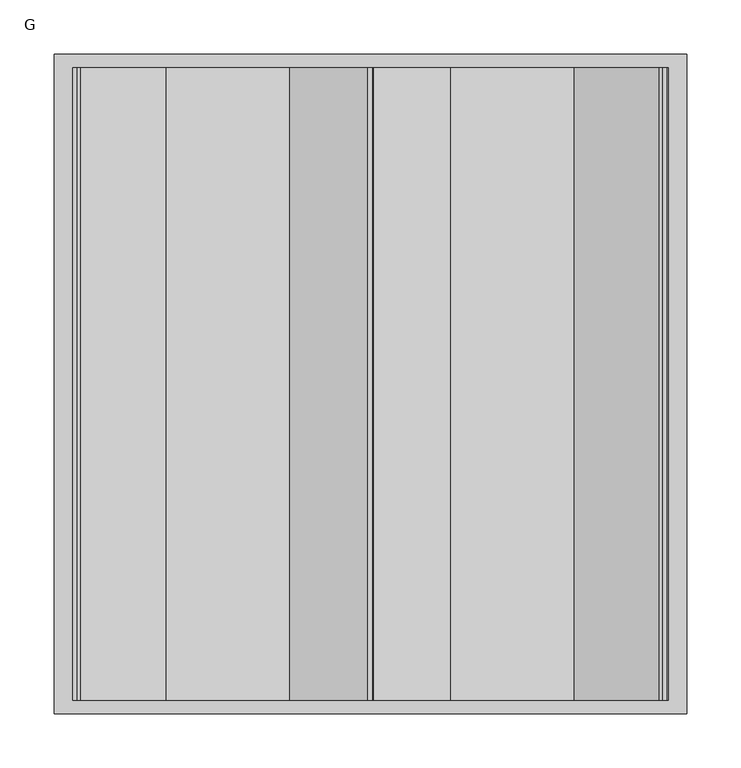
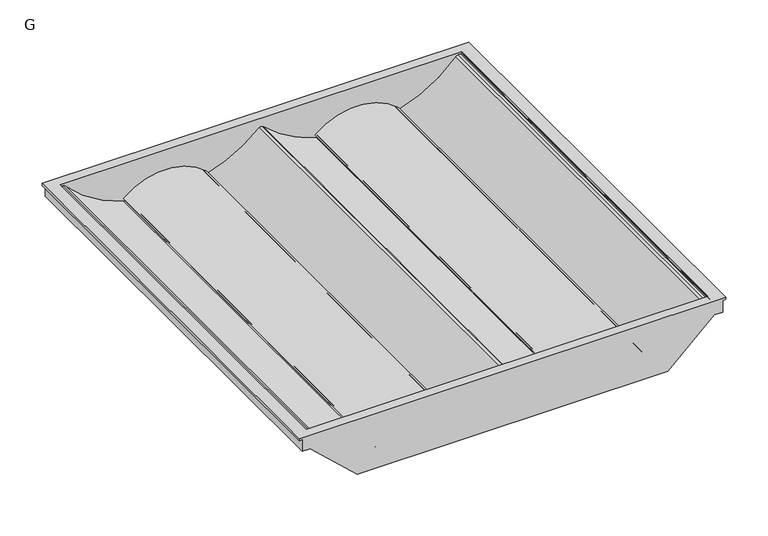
"""IFC4 building model written with IfcOpenShell, lengths in millimetres: light fixture geometry, OD74 (G) 2x2 Volumetric : G."""

import ifcopenshell
import ifcopenshell.guid

model = None  # the IFC model being written
_history = None  # IfcOwnerHistory: only IFC2X3 demands one
_inside = {}  # id of a spatial element -> (the spatial element, [elements in it])
_under = {}  # id of a project, library or spatial element -> (it, [spatial elements below it])
_declared = {}  # id of a project -> (the project, [libraries it declares])
_typed = {}  # id of a type object -> (the type object, [elements of that type])
_made_of = {}  # id of a material, layer set ... -> (it, [elements and type objects made of it])


def new_model(schema):
    """Start an empty IFC model of exactly this schema.

    Asked for "IFC4X3", IfcOpenShell would pick the latest addendum, in which some entities
    have other attributes; the version numbers below select the first issue.
    IFC2X3 requires an IfcOwnerHistory on every rooted entity: one is made here for all.
    """
    global model, _history
    if schema == "IFC4X3":
        model = ifcopenshell.file(schema_version=(4, 3, 0, 0))
    else:
        model = ifcopenshell.file(schema=schema)
    _inside.clear()
    _under.clear()
    _declared.clear()
    _typed.clear()
    _made_of.clear()
    _history = None
    if model.schema == "IFC2X3":
        org = make("IfcOrganization", Name="unknown")
        user = make(
            "IfcPersonAndOrganization",
            ThePerson=make("IfcPerson", FamilyName="unknown"),
            TheOrganization=org,
        )
        app = make(
            "IfcApplication",
            ApplicationDeveloper=org,
            Version="unknown",
            ApplicationFullName="unknown",
            ApplicationIdentifier="unknown",
        )
        _history = make(
            "IfcOwnerHistory",
            OwningUser=user,
            OwningApplication=app,
            ChangeAction="ADDED",
            CreationDate=0,
        )
    return model


def make(cls, **values):
    """One entity of the class cls with the attributes given. An attribute that is None is left unset."""
    return model.create_entity(
        cls, **{name: value for name, value in values.items() if value is not None}
    )


def rooted(cls, **values):
    """An entity with a GlobalId (a new one), such as an element, a storey or a relation."""
    return make(cls, GlobalId=ifcopenshell.guid.new(), OwnerHistory=_history, **values)


def si_unit(unit_type, name, prefix=None):
    """IfcSIUnit, for example si_unit("LENGTHUNIT", "METRE", prefix="MILLI")."""
    return make("IfcSIUnit", UnitType=unit_type, Prefix=prefix, Name=name)


def assignment(units):
    """IfcUnitAssignment: the units of a project."""
    return None if units is None else make("IfcUnitAssignment", Units=units)


def point(xyz):
    """IfcCartesianPoint."""
    return None if xyz is None else make("IfcCartesianPoint", Coordinates=xyz)


def direction(xyz):
    """IfcDirection."""
    return None if xyz is None else make("IfcDirection", DirectionRatios=xyz)


def frame(location, z_axis=None, x_axis=None):
    """IfcAxis2Placement3D, a coordinate frame: its origin and axes. An axis left out is left unset."""
    return make(
        "IfcAxis2Placement3D",
        Location=point(location),
        Axis=direction(z_axis),
        RefDirection=direction(x_axis),
    )


def frame_2d(location, x_axis=None):
    """IfcAxis2Placement2D, a coordinate frame in the plane: its origin and x axis."""
    return make(
        "IfcAxis2Placement2D", Location=point(location), RefDirection=direction(x_axis)
    )


def origin():
    """The frame at (0, 0, 0) with its axes left unset."""
    return frame((0.0, 0.0, 0.0))


def place(relative_to, where):
    """IfcLocalPlacement: puts the frame where relative to a parent placement (None: the world)."""
    return make(
        "IfcLocalPlacement", PlacementRelTo=relative_to, RelativePlacement=where
    )


def context(
    kind, dimensions, precision=None, world=None, true_north=None, identifier=None
):
    """IfcGeometricRepresentationContext, for example the 3D "Model" context."""
    return make(
        "IfcGeometricRepresentationContext",
        ContextIdentifier=identifier,
        ContextType=kind,
        CoordinateSpaceDimension=dimensions,
        Precision=precision,
        WorldCoordinateSystem=world,
        TrueNorth=true_north,
    )


def project(units=None, contexts=None):
    """IfcProject with its units and contexts."""
    return rooted(
        "IfcProject",
        Name="project",
        RepresentationContexts=contexts,
        UnitsInContext=assignment(units),
    )


def spatial(cls, under=None, at=None, **own):
    """A site, building, storey or space (cls), placed at a placement, below another one or the project."""
    s = rooted(cls, ObjectPlacement=at, **own)
    if under is not None:
        _under.setdefault(under.id(), (under, []))[1].append(s)
    return s


def polyline(points):
    """IfcPolyline through the points."""
    return make("IfcPolyline", Points=[point(p) for p in points])


def circle_curve(where, radius):
    """IfcCircle in the frame where."""
    return make("IfcCircle", Position=where, Radius=radius)


def trimmed(basis, trim1, trim2, sense, master):
    """IfcTrimmedCurve: the piece of a basis curve between two trims."""
    return make(
        "IfcTrimmedCurve",
        BasisCurve=basis,
        Trim1=trim1,
        Trim2=trim2,
        SenseAgreement=sense,
        MasterRepresentation=master,
    )


def segment(curve, same_sense, transition):
    """IfcCompositeCurveSegment."""
    return make(
        "IfcCompositeCurveSegment",
        Transition=transition,
        SameSense=same_sense,
        ParentCurve=curve,
    )


def composite_curve(segments, self_intersect=None):
    """IfcCompositeCurve: segments joined end to end."""
    return make("IfcCompositeCurve", Segments=segments, SelfIntersect=self_intersect)


def outline(outer, holes=None, kind="AREA"):
    """IfcArbitraryClosedProfileDef: a profile drawn as a closed curve; with holes, ...WithVoids."""
    if holes is None:
        return make("IfcArbitraryClosedProfileDef", ProfileType=kind, OuterCurve=outer)
    return make(
        "IfcArbitraryProfileDefWithVoids",
        ProfileType=kind,
        OuterCurve=outer,
        InnerCurves=holes,
    )


def extrude(swept, where, along, depth):
    """IfcExtrudedAreaSolid: the profile swept, set in the frame where, extruded along a direction by depth."""
    return make(
        "IfcExtrudedAreaSolid",
        SweptArea=swept,
        Position=where,
        ExtrudedDirection=direction(along),
        Depth=depth,
    )


def faces_of(points, faces, orient=None, outer=None):
    """IfcFace entities. A face is a list of loops; a loop is a list of indices into points, from 0.

    orient and outer hold one flag for each loop. By default every Orientation is true, the
    first loop of a face is its IfcFaceOuterBound and the others are IfcFaceBound.
    """
    made = []
    for i, loops in enumerate(faces):
        bounds = []
        for j, loop in enumerate(loops):
            is_outer = j == 0 if outer is None else outer[i][j]
            bounds.append(
                make(
                    "IfcFaceOuterBound" if is_outer else "IfcFaceBound",
                    Bound=make("IfcPolyLoop", Polygon=[points[k] for k in loop]),
                    Orientation=True if orient is None else orient[i][j],
                )
            )
        made.append(make("IfcFace", Bounds=bounds))
    return made


def faceted_brep(points, faces, orient=None, outer=None, voids=None):
    """IfcFacetedBrep: a solid bounded by flat faces; with voids (closed shells), ...WithVoids."""
    shared = [point(p) for p in points]
    hull = make("IfcClosedShell", CfsFaces=faces_of(shared, faces, orient, outer))
    if voids is None:
        return make("IfcFacetedBrep", Outer=hull)
    return make(
        "IfcFacetedBrepWithVoids",
        Outer=hull,
        Voids=[
            make(cls, CfsFaces=faces_of(shared, fs, o, b)) for cls, fs, o, b in voids
        ],
    )


def shape(context_of_items, identifier, shape_type, items):
    """IfcShapeRepresentation: the items that make up one representation, for example the "Body"."""
    return make(
        "IfcShapeRepresentation",
        ContextOfItems=context_of_items,
        RepresentationIdentifier=identifier,
        RepresentationType=shape_type,
        Items=items,
    )


def source(mapping_origin, context_of_items, identifier, shape_type, items):
    """IfcRepresentationMap: a shape defined once, which mapped items show again and again."""
    return make(
        "IfcRepresentationMap",
        MappingOrigin=mapping_origin,
        MappedRepresentation=shape(context_of_items, identifier, shape_type, items),
    )


def transform(
    local_origin,
    x_axis=None,
    y_axis=None,
    z_axis=None,
    scale=None,
    scale2=None,
    scale3=None,
    uniform=True,
):
    """IfcCartesianTransformationOperator3D, or its non-uniform kind. x_axis, y_axis, z_axis: its Axis1, 2, 3."""
    if uniform:
        return make(
            "IfcCartesianTransformationOperator3D",
            Axis1=direction(x_axis),
            Axis2=direction(y_axis),
            LocalOrigin=point(local_origin),
            Scale=scale,
            Axis3=direction(z_axis),
        )
    return make(
        "IfcCartesianTransformationOperator3DnonUniform",
        Axis1=direction(x_axis),
        Axis2=direction(y_axis),
        LocalOrigin=point(local_origin),
        Scale=scale,
        Axis3=direction(z_axis),
        Scale2=scale2,
        Scale3=scale3,
    )


def mapped(mapping_source, mapping_target):
    """IfcMappedItem: shows the shape of a source again, moved by a transform."""
    return make(
        "IfcMappedItem", MappingSource=mapping_source, MappingTarget=mapping_target
    )


def made_of(thing, what):
    """Note that an element or type object is made of a material, layer set ...; save() writes the relation."""
    if what is not None:
        _made_of.setdefault(what.id(), (what, []))[1].append(thing)
    return thing


def element(
    cls,
    number,
    at=None,
    inside=None,
    cuts=None,
    type_object=None,
    material=None,
    context=None,
    identifier="Body",
    shape_type=None,
    held_by="IfcProductDefinitionShape",
    body=None,
    shapes=None,
    **own,
):
    """One element of the class cls, such as IfcWall. Its Tag is "e" and its number.

    at: its placement. inside: the storey or other place that contains it. cuts: it is an
    opening in that element (IfcRelVoidsElement). A single representation is given by context,
    identifier, shape_type and body (its items); several are given by shapes. held_by: the class
    of the entity that holds the representations. save() writes the other relations.
    """
    e = rooted(cls, Tag="e%d" % number, ObjectPlacement=at, **own)
    if body is not None:
        shapes = [shape(context, identifier, shape_type, body)]
    if shapes is not None:
        e.Representation = make(held_by, Representations=shapes)
    if inside is not None:
        _inside.setdefault(inside.id(), (inside, []))[1].append(e)
    if cuts is not None:
        rooted(
            "IfcRelVoidsElement", RelatingBuildingElement=cuts, RelatedOpeningElement=e
        )
    if type_object is not None:
        _typed.setdefault(type_object.id(), (type_object, []))[1].append(e)
    return made_of(e, material)


def aggregate(whole, parts):
    """IfcRelAggregates: a whole, such as a stair, and the parts it consists of."""
    return rooted("IfcRelAggregates", RelatingObject=whole, RelatedObjects=parts)


def save(model, path):
    """Write the relations noted so far, then the file.

    IfcRelAggregates (storeys below a building ...), IfcRelContainedInSpatialStructure (elements
    in a storey), IfcRelDefinesByType, IfcRelAssociatesMaterial and IfcRelDeclares: one each for
    every whole, place, type object, material and project.
    """
    for whole, parts in _under.values():
        aggregate(whole, parts)
    for where, things in _inside.values():
        rooted(
            "IfcRelContainedInSpatialStructure",
            RelatedElements=things,
            RelatingStructure=where,
        )
    for kind, things in _typed.values():
        rooted("IfcRelDefinesByType", RelatedObjects=things, RelatingType=kind)
    for what, things in _made_of.values():
        rooted("IfcRelAssociatesMaterial", RelatedObjects=things, RelatingMaterial=what)
    for by, libraries in _declared.values():
        rooted("IfcRelDeclares", RelatingContext=by, RelatedDefinitions=libraries)
    model.write(path)


def g_8f0d4c95(model_context):
    return source(origin(), model_context, "Body", "SolidModel", [
        extrude(outline(composite_curve([segment(trimmed(circle_curve(frame_2d((112.5054644, -140.9532398)), 173.5070118), [point((-4.2307577, -269.3173219))], [point((-54.649699, -187.4702744))], False, "CARTESIAN"), True, "CONTINUOUS"), segment(trimmed(circle_curve(frame_2d((-56.9301693, -188.1048986)), 2.3671275), [point((-54.649699, -187.4702744))], [point((-55.5538508, -186.1790118))], True, "CARTESIAN"), True, "CONTINUOUS"), segment(polyline([(-55.5538508, -186.1790118), (-59.9466698, -182.6217771), (-66.5613676, -169.6397016), (-65.0938391, -168.8919584), (-58.8043647, -181.235747), (-53.6802217, -185.3851962), (-52.9563574, -187.5306114)]), True, "CONTINUOUS"), segment(trimmed(circle_curve(frame_2d((112.5054644, -140.854021)), 171.9195118), [point((-52.9563574, -187.5306114))], [point((-3.3513086, -267.8718415))], True, "CARTESIAN"), True, "CONTINUOUS"), segment(trimmed(circle_curve(frame_2d((-5.6758377, -271.3041047)), 4.1453427), [point((-3.3513086, -267.8718415))], [point((-1.5560712, -270.8443321))], False, "CARTESIAN"), True, "CONTINUOUS"), segment(polyline([(-1.5560712, -270.8443321), (-1.5560712, -275.0914428)]), True, "CONTINUOUS"), segment(trimmed(circle_curve(frame_2d((-6.0221447, -274.5247637)), 4.5018815), [point((-1.5560712, -275.0914428))], [point((-4.6885492, -278.8245847))], False, "CARTESIAN"), True, "CONTINUOUS"), segment(polyline([(-4.6885492, -278.8245847), (-13.3965954, -280.3600482), (-13.7180189, -278.537165), (-4.9730415, -276.9951895)]), True, "CONTINUOUS"), segment(trimmed(circle_curve(frame_2d((-5.9444491, -274.5908715)), 2.5931405), [point((-4.9730415, -276.9951895))], [point((-3.3513086, -274.5908715))], True, "CARTESIAN"), True, "CONTINUOUS"), segment(polyline([(-3.3513086, -274.5908715), (-3.3513086, -271.2033068)]), True, "CONTINUOUS"), segment(trimmed(circle_curve(frame_2d((-6.666532, -271.6011815)), 3.3390135), [point((-3.3513086, -271.2033068))], [point((-4.2307577, -269.3173219))], True, "CARTESIAN"), True, "CONTINUOUS")], self_intersect=False)), frame((0.0, -292.1, 0.0), z_axis=(0.0, 1.0, 0.0), x_axis=(0.0, 0.0, 1.0)), (0.0, 0.0, 1.0), 584.2),
        extrude(outline(composite_curve([segment(trimmed(circle_curve(frame_2d((-56.5332943, 188.1048986)), 2.3671275), [point((-55.1569758, 186.1790118))], [point((-54.252824, 187.4702744))], True, "CARTESIAN"), True, "CONTINUOUS"), segment(trimmed(circle_curve(frame_2d((105.5855462, 145.1121044)), 165.3557351), [point((-54.252824, 187.4702744))], [point((-4.3584413, 268.6225848))], False, "CARTESIAN"), True, "CONTINUOUS"), segment(trimmed(circle_curve(frame_2d((-5.6470884, 270.5330827)), 2.3044768), [point((-4.3584413, 268.6225848))], [point((-3.3426115, 270.5330827))], True, "CARTESIAN"), True, "CONTINUOUS"), segment(polyline([(-3.3426115, 270.5330827), (-3.3426115, 274.3143174)]), True, "CONTINUOUS"), segment(trimmed(circle_curve(frame_2d((-5.4883961, 274.3143174)), 2.1457846), [point((-3.3426115, 274.3143174))], [point((-5.4883961, 276.460102))], True, "CARTESIAN"), True, "CONTINUOUS"), segment(polyline([(-5.4883961, 276.460102), (-13.8561613, 278.0568286), (-13.4698614, 279.8742264), (-3.7269186, 277.8032999)]), True, "CONTINUOUS"), segment(trimmed(circle_curve(frame_2d((-5.897766, 274.043282)), 4.3416948), [point((-3.7269186, 277.8032999))], [point((-1.5560712, 274.043282))], False, "CARTESIAN"), True, "CONTINUOUS"), segment(polyline([(-1.5560712, 274.043282), (-1.5560712, 270.2559308)]), True, "CONTINUOUS"), segment(trimmed(circle_curve(frame_2d((-6.9975554, 271.1552896)), 5.5153056), [point((-1.5560712, 270.2559308))], [point((-3.3513086, 267.0172369))], False, "CARTESIAN"), True, "CONTINUOUS"), segment(trimmed(circle_curve(frame_2d((103.2298032, 146.0604619)), 161.2143753), [point((-3.3513086, 267.0172369))], [point((-52.5594824, 187.5306114))], True, "CARTESIAN"), True, "CONTINUOUS"), segment(polyline([(-52.5594824, 187.5306114), (-53.2833467, 185.3851962), (-59.083143, 180.6886137), (-65.0938391, 168.8919584), (-66.5613676, 169.6397016), (-60.2254481, 182.0746438), (-55.1569758, 186.1790118)]), True, "CONTINUOUS")], self_intersect=False)), frame((0.0, -292.1, 0.0), z_axis=(0.0, 1.0, 0.0), x_axis=(0.0, 0.0, 1.0)), (0.0, 0.0, 1.0), 584.2),
        faceted_brep([(275.0914428, 292.1, 1.4698237), (-275.0914428, 292.1, 1.4698237), (-275.0914428, 292.1, -1.5560712), (-286.3929235, 292.1, -1.5560712), (-286.3929235, 292.1, -16.8096355), (-276.1021999, 292.1, -16.8096355), (-212.3140092, 292.1, -76.2930857), (212.3140092, 292.1, -76.2930857), (276.1021999, 292.1, -16.8096355), (286.3929235, 292.1, -16.8096355), (286.3929235, 292.1, -1.5560712), (275.0914428, 292.1, -1.5560712), (-292.3265781, 304.8, -1.5560712), (-292.3265781, 304.8, 1.4698237), (292.3265781, 304.8, 1.4698237), (292.3265781, 304.8, -1.5560712), (287.9804235, 304.8, -1.5560712), (287.9804235, 304.8, -18.3971355), (276.7275328, 304.8, -18.3971355), (212.9393421, 304.8, -77.8805857), (-212.9393421, 304.8, -77.8805857), (-276.7275328, 304.8, -18.3971355), (-287.9804235, 304.8, -18.3971355), (-287.9804235, 304.8, -1.5560712), (-287.9804235, -304.8, -1.5560712), (-292.3265781, -304.8, -1.5560712), (-287.9804235, -304.8, -18.3971355), (-276.7275328, -304.8, -18.3971355), (-212.9393421, -304.8, -77.8805857), (212.9393421, -304.8, -77.8805857), (276.7275328, -304.8, -18.3971355), (287.9804235, -304.8, -18.3971355), (287.9804235, -304.8, -1.5560712), (292.3265781, -304.8, -1.5560712), (292.3265781, -304.8, 1.4698237), (-292.3265781, -304.8, 1.4698237), (275.0914428, -292.1, 1.4698237), (-275.0914428, -292.1, 1.4698237), (-275.0914428, -292.1, -1.5560712), (275.0914428, -292.1, -1.5560712), (286.3929235, -292.1, -1.5560712), (286.3929235, -292.1, -16.8096355), (276.1021999, -292.1, -16.8096355), (212.3140092, -292.1, -76.2930857), (-212.3140092, -292.1, -76.2930857), (-276.1021999, -292.1, -16.8096355), (-286.3929235, -292.1, -16.8096355), (-286.3929235, -292.1, -1.5560712)], [[[0, 1, 2, 3, 4, 5, 6, 7, 8, 9, 10, 11]], [[12, 13, 14, 15, 16, 17, 18, 19, 20, 21, 22, 23]], [[12, 23, 24, 25]], [[24, 23, 22, 26]], [[26, 22, 21, 27]], [[27, 21, 20, 28]], [[28, 20, 19, 29]], [[29, 19, 18, 30]], [[30, 18, 17, 31]], [[31, 17, 16, 32]], [[32, 16, 15, 33]], [[33, 15, 14, 34]], [[34, 14, 13, 35], [0, 36, 37, 1]], [[35, 13, 12, 25]], [[38, 2, 1, 37]], [[36, 0, 11, 39]], [[39, 11, 10, 40]], [[40, 10, 9, 41]], [[41, 9, 8, 42]], [[42, 8, 7, 43]], [[43, 7, 6, 44]], [[44, 6, 5, 45]], [[45, 5, 4, 46]], [[46, 4, 3, 47]], [[2, 38, 47, 3]], [[25, 24, 26, 27, 28, 29, 30, 31, 32, 33, 34, 35]], [[37, 36, 39, 40, 41, 42, 43, 44, 45, 46, 47, 38]]]),
        extrude(outline(composite_curve([segment(polyline([(-48.5298488, -188.7006197), (-58.5862665, -181.3942046), (-65.6265433, -168.1533697)]), True, "CONTINUOUS"), segment(trimmed(circle_curve(frame_2d((-66.11778, -168.8816581)), 0.8784745), [point((-65.6265433, -168.1533697))], [point((-66.9962545, -168.8816581))], True, "CARTESIAN"), True, "CONTINUOUS"), segment(polyline([(-66.9962545, -168.8816581), (-66.9962545, -171.8917189), (-68.7932114, -171.8917189), (-68.7932114, -168.6880098)]), True, "CONTINUOUS"), segment(trimmed(circle_curve(frame_2d((-66.1503872, -168.9193123)), 2.6529268), [point((-68.7932114, -168.6880098))], [point((-64.2102173, -167.1099584))], False, "CARTESIAN"), True, "CONTINUOUS"), segment(polyline([(-64.2102173, -167.1099584), (-57.1823076, -180.3275343), (-50.3967558, -185.2575262)]), True, "CONTINUOUS"), segment(trimmed(circle_curve(frame_2d((-49.2685372, -183.3257201)), 2.2371303), [point((-50.3967558, -185.2575262))], [point((-47.5476419, -184.7551506))], True, "CARTESIAN"), True, "CONTINUOUS"), segment(trimmed(circle_curve(frame_2d((-111.6543732, -131.5060541)), 83.3375022), [point((-47.5476419, -184.7551506))], [point((-47.5476419, -78.2569577))], True, "CARTESIAN"), True, "CONTINUOUS"), segment(trimmed(circle_curve(frame_2d((-48.9260942, -79.8426855)), 2.10111), [point((-47.5476419, -78.2569577))], [point((-50.3045464, -78.2569577))], True, "CARTESIAN"), True, "CONTINUOUS"), segment(polyline([(-50.3045464, -78.2569577), (-58.5010557, -85.3820745), (-63.815751, -95.8127514)]), True, "CONTINUOUS"), segment(trimmed(circle_curve(frame_2d((-66.1257984, -94.4790449)), 2.667413), [point((-63.815751, -95.8127514))], [point((-68.7932114, -94.4790449))], False, "CARTESIAN"), True, "CONTINUOUS"), segment(polyline([(-68.7932114, -94.4790449), (-68.7932114, -90.9298401), (-66.8203628, -90.9298401), (-66.8203628, -93.9707253), (-65.6205323, -95.1705557), (-58.8043647, -81.7930735), (-48.5298488, -74.8656655)]), True, "CONTINUOUS"), segment(trimmed(circle_curve(frame_2d((-111.9948105, -131.7831426)), 85.2490502), [point((-48.5298488, -74.8656655))], [point((-48.5298488, -188.7006197))], False, "CARTESIAN"), True, "CONTINUOUS")], self_intersect=False)), frame((0.0, -292.1, 0.0), z_axis=(0.0, 1.0, 0.0), x_axis=(0.0, 0.0, 1.0)), (0.0, 0.0, 1.0), 584.2),
        extrude(outline(composite_curve([segment(polyline([(-48.5298488, 74.0306303), (-58.5862665, 81.3370454), (-65.6265433, 94.5778803)]), True, "CONTINUOUS"), segment(trimmed(circle_curve(frame_2d((-66.11778, 93.8495919)), 0.8784745), [point((-65.6265433, 94.5778803))], [point((-66.9962545, 93.8495919))], True, "CARTESIAN"), True, "CONTINUOUS"), segment(polyline([(-66.9962545, 93.8495919), (-66.9962545, 90.8395311), (-68.7932114, 90.8395311), (-68.7932114, 94.0432402)]), True, "CONTINUOUS"), segment(trimmed(circle_curve(frame_2d((-66.1503872, 93.8119377)), 2.6529268), [point((-68.7932114, 94.0432402))], [point((-64.2102173, 95.6212916))], False, "CARTESIAN"), True, "CONTINUOUS"), segment(polyline([(-64.2102173, 95.6212916), (-57.1823076, 82.4037157), (-50.3967558, 77.4737238)]), True, "CONTINUOUS"), segment(trimmed(circle_curve(frame_2d((-49.2685372, 79.4055299)), 2.2371303), [point((-50.3967558, 77.4737238))], [point((-47.5476419, 77.9760994))], True, "CARTESIAN"), True, "CONTINUOUS"), segment(trimmed(circle_curve(frame_2d((-111.6543732, 131.2251959)), 83.3375022), [point((-47.5476419, 77.9760994))], [point((-47.5476419, 184.4742923))], True, "CARTESIAN"), True, "CONTINUOUS"), segment(trimmed(circle_curve(frame_2d((-48.9260942, 182.8885645)), 2.10111), [point((-47.5476419, 184.4742923))], [point((-50.3045464, 184.4742923))], True, "CARTESIAN"), True, "CONTINUOUS"), segment(polyline([(-50.3045464, 184.4742923), (-58.5010557, 177.3491755), (-63.815751, 166.9184986)]), True, "CONTINUOUS"), segment(trimmed(circle_curve(frame_2d((-66.1257984, 168.2522051)), 2.667413), [point((-63.815751, 166.9184986))], [point((-68.7932114, 168.2522051))], False, "CARTESIAN"), True, "CONTINUOUS"), segment(polyline([(-68.7932114, 168.2522051), (-68.7932114, 171.8014099), (-66.8203628, 171.8014099), (-66.8203628, 168.7605247), (-65.6205323, 167.5606943), (-58.8043647, 180.9381765), (-48.5298488, 187.8655845)]), True, "CONTINUOUS"), segment(trimmed(circle_curve(frame_2d((-111.9948105, 130.9481074)), 85.2490502), [point((-48.5298488, 187.8655845))], [point((-48.5298488, 74.0306303))], False, "CARTESIAN"), True, "CONTINUOUS")], self_intersect=False)), frame((0.0, -292.1, 0.0), z_axis=(0.0, 1.0, 0.0), x_axis=(0.0, 0.0, 1.0)), (0.0, 0.0, 1.0), 584.2),
        extrude(outline(composite_curve([segment(trimmed(circle_curve(frame_2d((112.6046831, -122.3732369)), 173.5070118), [point((-54.5504802, -75.8562023))], [point((-13.3780717, -3.0709795))], False, "CARTESIAN"), True, "CONTINUOUS"), segment(trimmed(circle_curve(frame_2d((-16.2348857, -0.365654)), 3.934485), [point((-13.3780717, -3.0709795))], [point((-13.4697769, 2.4333361))], True, "CARTESIAN"), True, "CONTINUOUS"), segment(trimmed(circle_curve(frame_2d((110.4114899, 120.8986074)), 171.4076684), [point((-13.4697769, 2.4333361))], [point((-54.9950134, 75.9399881))], False, "CARTESIAN"), True, "CONTINUOUS"), segment(polyline([(-54.9950134, 75.9399881), (-61.0695819, 81.8061308), (-66.2772597, 92.4834526), (-64.7645801, 93.2212358), (-59.5050788, 82.43766), (-58.7694944, 81.7020757), (-53.780459, 77.5157778), (-52.8610483, 75.6307066)]), True, "CONTINUOUS"), segment(trimmed(circle_curve(frame_2d((110.8145661, 120.8986074)), 169.8201684), [point((-52.8610483, 75.6307066))], [point((-11.581048, 3.1777374))], True, "CARTESIAN"), True, "CONTINUOUS"), segment(polyline([(-11.581048, 3.1777374), (-10.9022924, 1.9363292)]), True, "CONTINUOUS"), segment(trimmed(circle_curve(frame_2d((-16.4155256, -0.2718373)), 5.9390015), [point((-10.9022924, 1.9363292))], [point((-10.9022924, -2.4800038))], False, "CARTESIAN"), True, "CONTINUOUS"), segment(trimmed(circle_curve(frame_2d((112.5054644, -122.1747994)), 171.9195118), [point((-10.9022924, -2.4800038))], [point((-52.9563574, -75.4982091))], True, "CARTESIAN"), True, "CONTINUOUS"), segment(polyline([(-52.9563574, -75.4982091), (-53.6802217, -77.6436243), (-58.8043647, -81.7930735), (-65.0938391, -94.136862), (-66.5613676, -93.3891189), (-59.9466698, -80.4070433), (-56.4224576, -77.5531926)]), True, "CONTINUOUS"), segment(trimmed(circle_curve(frame_2d((-56.8309505, -75.2215781)), 2.3671275), [point((-56.4224576, -77.5531926))], [point((-54.5504802, -75.8562023))], True, "CARTESIAN"), True, "CONTINUOUS")], self_intersect=False)), frame((0.0, -292.1, 0.0), z_axis=(0.0, 1.0, 0.0), x_axis=(0.0, 0.0, 1.0)), (0.0, 0.0, 1.0), 584.2),
    ])


if __name__ == "__main__":
    model = new_model("IFC4")
    model_context = context("Model", 3, world=origin())
    ifc_project = project(units=[si_unit("LENGTHUNIT", "METRE", prefix="MILLI")], contexts=[model_context])
    site = spatial("IfcSite", under=ifc_project)
    building = spatial("IfcBuilding", under=site)
    placement = place(None, origin())
    g_shape = g_8f0d4c95(model_context)
    element("IfcLightFixture", 1, ObjectType="OD74 (G) 2x2 Volumetric : G", at=placement, inside=building, context=model_context, shape_type="MappedRepresentation", body=[
        mapped(g_shape, transform((0.0, 0.0, 0.0), x_axis=(1.0, 0.0, 0.0), y_axis=(0.0, 1.0, 0.0), z_axis=(0.0, 0.0, 1.0))),
    ])
    save(model, "model.ifc")
